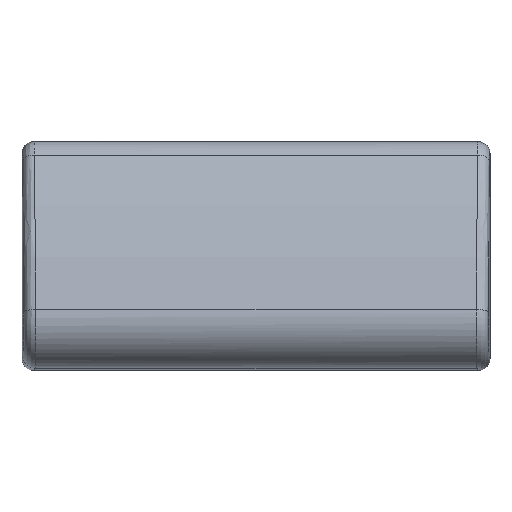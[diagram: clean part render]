
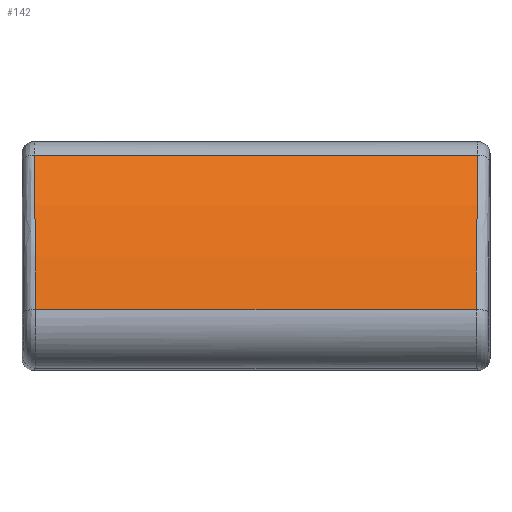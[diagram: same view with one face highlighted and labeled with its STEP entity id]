
A CAD part, top view. The second image highlights one B-rep face of the part: STEP entity #142.
In plain terms, the highlighted cylindrical face has radius 173.4 mm (diameter 346.8 mm), a partial arc.
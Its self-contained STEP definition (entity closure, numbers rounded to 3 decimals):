
#119=CYLINDRICAL_SURFACE('',#519,173.4);
#130=B_SPLINE_CURVE_WITH_KNOTS('',3,(#758,#759,#760,#761),.UNSPECIFIED.,
 .F.,.F.,(4,4),(0.,1.),.UNSPECIFIED.);
#131=B_SPLINE_CURVE_WITH_KNOTS('',3,(#765,#766,#767,#768),.UNSPECIFIED.,
 .F.,.F.,(4,4),(0.,1.),.UNSPECIFIED.);
#142=ADVANCED_FACE('',(#175),#119,.T.);
#175=FACE_OUTER_BOUND('',#201,.T.);
#201=EDGE_LOOP('',(#312,#313,#314,#315));
#238=LINE('',#737,#266);
#239=LINE('',#763,#267);
#266=VECTOR('',#596,1.);
#267=VECTOR('',#599,1.);
#312=ORIENTED_EDGE('',*,*,#457,.T.);
#313=ORIENTED_EDGE('',*,*,#459,.T.);
#314=ORIENTED_EDGE('',*,*,#460,.F.);
#315=ORIENTED_EDGE('',*,*,#461,.T.);
#416=VERTEX_POINT('',#736);
#417=VERTEX_POINT('',#738);
#418=VERTEX_POINT('',#762);
#419=VERTEX_POINT('',#764);
#457=EDGE_CURVE('',#417,#416,#238,.T.);
#459=EDGE_CURVE('',#416,#418,#130,.T.);
#460=EDGE_CURVE('',#419,#418,#239,.T.);
#461=EDGE_CURVE('',#419,#417,#131,.T.);
#519=AXIS2_PLACEMENT_3D('',#769,#600,#601);
#596=DIRECTION('',(1.,0.,0.));
#599=DIRECTION('',(1.,0.,0.));
#600=DIRECTION('',(1.,0.,0.));
#601=DIRECTION('',(0.,-1.,0.));
#736=CARTESIAN_POINT('',(66.791,-70.963,33.756));
#737=CARTESIAN_POINT('',(-70.89,-70.963,33.756));
#738=CARTESIAN_POINT('',(-66.791,-70.963,33.756));
#758=CARTESIAN_POINT('',(66.791,-70.963,33.756));
#759=CARTESIAN_POINT('',(66.859,-54.862,29.792));
#760=CARTESIAN_POINT('',(66.967,-38.994,23.418));
#761=CARTESIAN_POINT('',(67.118,-24.14,14.633));
#762=CARTESIAN_POINT('',(67.118,-24.14,14.633));
#763=CARTESIAN_POINT('',(-70.89,-24.14,14.633));
#764=CARTESIAN_POINT('',(-67.118,-24.14,14.633));
#765=CARTESIAN_POINT('',(-67.118,-24.14,14.633));
#766=CARTESIAN_POINT('',(-66.967,-38.994,23.418));
#767=CARTESIAN_POINT('',(-66.859,-54.862,29.792));
#768=CARTESIAN_POINT('',(-66.791,-70.963,33.756));
#769=CARTESIAN_POINT('',(-70.89,-112.412,-134.617));
